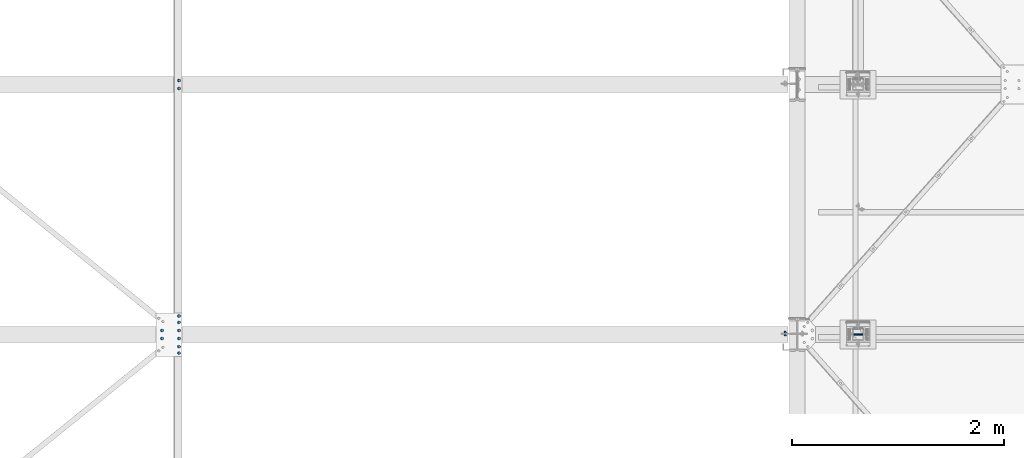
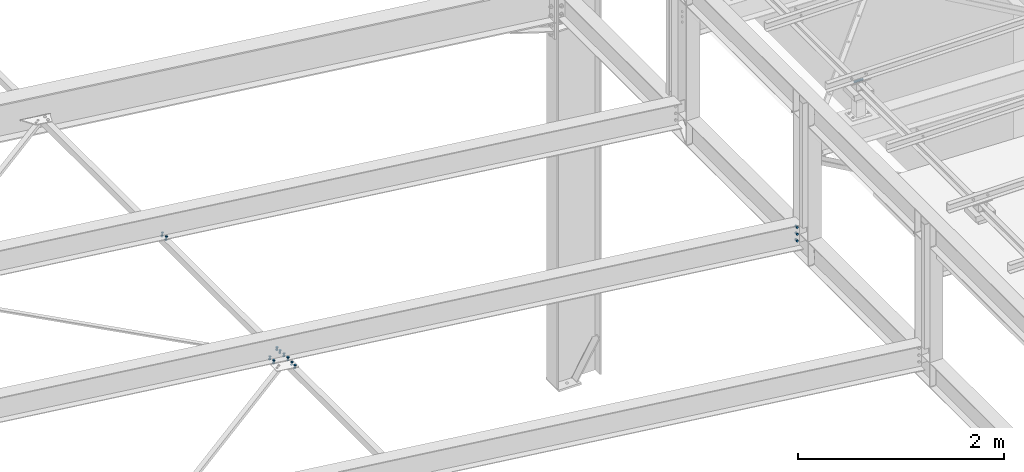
# One storey, part 351 of 3134: 6 mechanical fasteners, 4 elements without a shape of their own.
"""IFC2X3 building model written with IfcOpenShell, lengths in millimetres."""

from ifc_helpers import new_model, si_unit, frame, origin_with_axes, place, context, subcontext, project, spatial, faceted_brep, source, transform, mapped, material, type_object, element, aggregate, save


model = new_model("IFC2X3")

# Units and contexts
model_context = context("Model", 3, precision=1e-05, world=origin_with_axes())
body_context = subcontext(model_context, "Body", "Model", "MODEL_VIEW")
ifc_project = project(units=[si_unit("LENGTHUNIT", "METRE", prefix="MILLI"), si_unit("AREAUNIT", "SQUARE_METRE"), si_unit("VOLUMEUNIT", "CUBIC_METRE"), si_unit("MASSUNIT", "GRAM", prefix="KILO"), si_unit("TIMEUNIT", "SECOND"), si_unit("PLANEANGLEUNIT", "RADIAN"), si_unit("SOLIDANGLEUNIT", "STERADIAN"), si_unit("THERMODYNAMICTEMPERATUREUNIT", "DEGREE_CELSIUS"), si_unit("LUMINOUSINTENSITYUNIT", "LUMEN")], contexts=[model_context])

# Site, building, storey
site_placement = place(None, origin_with_axes())
site = spatial("IfcSite", under=ifc_project, at=site_placement, CompositionType="ELEMENT")
building_placement = place(site_placement, origin_with_axes())
building = spatial("IfcBuilding", under=site, at=building_placement, Name="Undefined", CompositionType="ELEMENT")
storey_placement = place(building_placement, origin_with_axes())
storey = spatial("IfcBuildingStorey", under=building, at=storey_placement, Name="Undefined", CompositionType="ELEMENT", Elevation=0.0)

# Assembly, mechanical fasteners
assembly_1_placement = place(storey_placement, origin_with_axes())
assembly_1 = element("IfcElementAssembly", 1, at=assembly_1_placement, inside=storey, Name="300", AssemblyPlace="NOTDEFINED", PredefinedType="RIGID_FRAME")
ifc_material = material(Name="8.8")
mechanical_fastener_type = type_object("IfcMechanicalFastenerType", Name="Bolt assembly")
shared_shape_1 = source(origin_with_axes(), body_context, "Body", "Brep", [
    faceted_brep([(13.856406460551, -19.199990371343, 0.0), (6.92820323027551, -19.199990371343, 12.0), (-6.92820323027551, -19.199990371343, 12.0), (-13.856406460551, -19.199990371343, 1.69692038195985e-15), (-6.92820323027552, -19.199990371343, -12.0), (6.9282032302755, -19.199990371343, -12.0), (6.9282032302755, -9.19999037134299, -12.0), (-6.92820323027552, -9.19999037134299, -12.0), (-13.856406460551, -9.19999037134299, 1.69692038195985e-15), (-6.92820323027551, -9.19999037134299, 12.0), (6.92820323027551, -9.19999037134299, 12.0), (13.856406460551, -9.19999037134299, 0.0), (8.0, -9.19999037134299, 0.0), (6.92820323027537, -9.19999037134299, 4.00000000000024), (3.99999999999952, -9.19999037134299, 6.92820323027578), (-8.29068785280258e-13, -9.19999037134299, 8.0), (-4.00000000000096, -9.19999037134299, 6.92820323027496), (-6.9282032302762, -9.19999037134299, 3.99999999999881), (-8.0, -9.19999037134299, -1.65813757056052e-12), (-6.92820323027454, -9.19999037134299, -4.00000000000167), (-3.99999999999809, -9.19999037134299, -6.92820323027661), (2.47832457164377e-12, -9.19999037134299, -8.0), (4.00000000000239, -9.19999037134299, -6.92820323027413), (6.92820323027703, -9.19999037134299, -3.99999999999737), (6.92820323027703, 25.800009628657, -3.99999999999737), (4.00000000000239, 25.800009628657, -6.92820323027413), (2.47832457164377e-12, 25.800009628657, -8.0), (-3.99999999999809, 25.800009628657, -6.92820323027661), (-6.92820323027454, 25.800009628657, -4.00000000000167), (-8.0, 25.800009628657, -1.65813757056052e-12), (-6.9282032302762, 25.800009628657, 3.99999999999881), (-4.00000000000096, 25.800009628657, 6.92820323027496), (-8.29068785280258e-13, 25.800009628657, 8.0), (3.99999999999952, 25.800009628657, 6.92820323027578), (6.92820323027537, 25.800009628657, 4.00000000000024), (8.0, 25.800009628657, 0.0), (13.856406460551, 8.00000637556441, 0.0), (6.92820323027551, 8.00000637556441, 12.0), (-6.92820323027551, 8.00000637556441, 12.0), (-13.856406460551, 8.00000637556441, 1.69692038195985e-15), (-6.92820323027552, 8.00000637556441, -12.0), (6.9282032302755, 8.00000637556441, -12.0), (6.9282032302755, 21.0000063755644, -12.0), (-6.92820323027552, 21.0000063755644, -12.0), (-13.856406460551, 21.0000063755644, 1.69692038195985e-15), (-6.92820323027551, 21.0000063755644, 12.0), (6.92820323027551, 21.0000063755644, 12.0), (13.856406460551, 21.0000063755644, 0.0)], [[[0, 1, 2, 3, 4, 5]], [[6, 7, 8, 9, 10, 11]], [[0, 11, 10, 1]], [[1, 10, 9, 2]], [[2, 9, 8, 3]], [[3, 8, 7, 4]], [[4, 7, 6, 5]], [[5, 6, 11, 0]], [[12, 13, 14, 15, 16, 17, 18, 19, 20, 21, 22, 23]], [[24, 25, 26, 27, 28, 29, 30, 31, 32, 33, 34, 35]], [[12, 35, 34, 13]], [[13, 34, 33, 14]], [[14, 33, 32, 15]], [[15, 32, 31, 16]], [[16, 31, 30, 17]], [[17, 30, 29, 18]], [[18, 29, 28, 19]], [[19, 28, 27, 20]], [[20, 27, 26, 21]], [[21, 26, 25, 22]], [[22, 25, 24, 23]], [[23, 24, 35, 12]], [[36, 37, 38, 39, 40, 41]], [[42, 43, 44, 45, 46, 47]], [[36, 47, 46, 37]], [[37, 46, 45, 38]], [[38, 45, 44, 39]], [[39, 44, 43, 40]], [[40, 43, 42, 41]], [[41, 42, 47, 36]]]),
    faceted_brep([(9.0, -0.1, 0.0), (7.79422863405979, -0.1, 4.50000000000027), (4.49999999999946, -0.1, 7.79422863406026), (-9.3270238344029e-13, -0.1, 9.0), (-4.50000000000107, -0.1, 7.79422863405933), (-7.79422863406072, -0.1, 4.49999999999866), (-9.0, -0.1, -1.86540476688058e-12), (-7.79422863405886, -0.1, -4.50000000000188), (-4.49999999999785, -0.1, -7.79422863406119), (2.78811514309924e-12, -0.1, -9.0), (4.50000000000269, -0.1, -7.7942286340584), (7.79422863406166, -0.1, -4.49999999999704), (7.79422863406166, 8.00000000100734, -4.49999999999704), (4.50000000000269, 8.00000000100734, -7.7942286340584), (2.78811514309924e-12, 8.00000000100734, -9.0), (-4.49999999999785, 8.00000000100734, -7.79422863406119), (-7.79422863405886, 8.00000000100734, -4.50000000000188), (-9.0, 8.00000000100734, -1.86540476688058e-12), (-7.79422863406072, 8.00000000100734, 4.49999999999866), (-4.50000000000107, 8.00000000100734, 7.79422863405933), (-9.3270238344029e-13, 8.00000000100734, 9.0), (4.49999999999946, 8.00000000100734, 7.79422863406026), (7.79422863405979, 8.00000000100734, 4.50000000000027), (9.0, 8.00000000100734, 0.0), (9.0, -9.09999037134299, 0.0), (7.79422863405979, -9.09999037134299, 4.50000000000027), (4.49999999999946, -9.09999037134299, 7.79422863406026), (-9.3270238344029e-13, -9.09999037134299, 9.0), (-4.50000000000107, -9.09999037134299, 7.79422863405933), (-7.79422863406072, -9.09999037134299, 4.49999999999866), (-9.0, -9.09999037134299, -1.86540476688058e-12), (-7.79422863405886, -9.09999037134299, -4.50000000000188), (-4.49999999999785, -9.09999037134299, -7.79422863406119), (2.78811514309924e-12, -9.09999037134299, -9.0), (4.50000000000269, -9.09999037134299, -7.7942286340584), (7.79422863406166, -9.09999037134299, -4.49999999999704), (7.79422863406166, 0.100000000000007, -4.49999999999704), (4.50000000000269, 0.100000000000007, -7.7942286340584), (2.78811514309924e-12, 0.100000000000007, -9.0), (-4.49999999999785, 0.100000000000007, -7.79422863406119), (-7.79422863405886, 0.100000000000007, -4.50000000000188), (-9.0, 0.100000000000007, -1.86540476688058e-12), (-7.79422863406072, 0.100000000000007, 4.49999999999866), (-4.50000000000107, 0.100000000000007, 7.79422863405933), (-9.3270238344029e-13, 0.100000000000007, 9.0), (4.49999999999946, 0.100000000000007, 7.79422863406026), (7.79422863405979, 0.100000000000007, 4.50000000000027), (9.0, 0.100000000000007, 0.0)], [[[0, 1, 2, 3, 4, 5, 6, 7, 8, 9, 10, 11]], [[12, 13, 14, 15, 16, 17, 18, 19, 20, 21, 22, 23]], [[0, 23, 22, 1]], [[1, 22, 21, 2]], [[2, 21, 20, 3]], [[3, 20, 19, 4]], [[4, 19, 18, 5]], [[5, 18, 17, 6]], [[6, 17, 16, 7]], [[7, 16, 15, 8]], [[8, 15, 14, 9]], [[9, 14, 13, 10]], [[10, 13, 12, 11]], [[11, 12, 23, 0]], [[24, 25, 26, 27, 28, 29, 30, 31, 32, 33, 34, 35]], [[36, 37, 38, 39, 40, 41, 42, 43, 44, 45, 46, 47]], [[24, 47, 46, 25]], [[25, 46, 45, 26]], [[26, 45, 44, 27]], [[27, 44, 43, 28]], [[28, 43, 42, 29]], [[29, 42, 41, 30]], [[30, 41, 40, 31]], [[31, 40, 39, 32]], [[32, 39, 38, 33]], [[33, 38, 37, 34]], [[34, 37, 36, 35]], [[35, 36, 47, 24]]]),
])
mechanical_fastener_1_placement = place(assembly_1_placement, frame((61633.5751064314, 14692.0, 4816.43281405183), z_axis=(-0.992623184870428, 0.0, 0.121240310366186), x_axis=(0.0, 1.0, 0.0)))
mechanical_fastener_1 = element("IfcMechanicalFastener", 2, at=mechanical_fastener_1_placement, type_object=mechanical_fastener_type, material=ifc_material, Name="Bolt assembly", NominalDiameter=16.0, NominalLength=35.0, context=body_context, shape_type="MappedRepresentation", body=[
    mapped(shared_shape_1, transform((0.0, -5.32963895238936e-10, -79.9999999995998))),
    mapped(shared_shape_1, transform((76.0, -5.32963895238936e-10, -79.9999999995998))),
    mapped(shared_shape_1, transform((0.0, 5.3114490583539e-10, 79.9999999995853))),
    mapped(shared_shape_1, transform((76.0, 5.3114490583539e-10, 79.9999999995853))),
])
shared_shape_2 = source(origin_with_axes(), body_context, "Body", "Brep", [
    faceted_brep([(13.856406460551, -13.0499999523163, 0.0), (6.92820323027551, -13.0499999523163, 12.0), (-6.92820323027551, -13.0499999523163, 12.0), (-13.856406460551, -13.0499999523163, 1.69692038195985e-15), (-6.92820323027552, -13.0499999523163, -12.0), (6.9282032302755, -13.0499999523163, -12.0), (6.9282032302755, -3.04999995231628, -12.0), (-6.92820323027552, -3.04999995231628, -12.0), (-13.856406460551, -3.04999995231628, 1.69692038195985e-15), (-6.92820323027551, -3.04999995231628, 12.0), (6.92820323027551, -3.04999995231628, 12.0), (13.856406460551, -3.04999995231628, 0.0), (8.0, -3.04999995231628, 0.0), (6.92820323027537, -3.04999995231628, 4.00000000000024), (3.99999999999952, -3.04999995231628, 6.92820323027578), (-8.29068785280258e-13, -3.04999995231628, 8.0), (-4.00000000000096, -3.04999995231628, 6.92820323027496), (-6.9282032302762, -3.04999995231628, 3.99999999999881), (-8.0, -3.04999995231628, -1.65813757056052e-12), (-6.92820323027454, -3.04999995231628, -4.00000000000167), (-3.99999999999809, -3.04999995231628, -6.92820323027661), (2.47832457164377e-12, -3.04999995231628, -8.0), (4.00000000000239, -3.04999995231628, -6.92820323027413), (6.92820323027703, -3.04999995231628, -3.99999999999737), (6.92820323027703, 31.9500000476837, -3.99999999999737), (4.00000000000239, 31.9500000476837, -6.92820323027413), (2.47832457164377e-12, 31.9500000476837, -8.0), (-3.99999999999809, 31.9500000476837, -6.92820323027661), (-6.92820323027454, 31.9500000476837, -4.00000000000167), (-8.0, 31.9500000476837, -1.65813757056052e-12), (-6.9282032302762, 31.9500000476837, 3.99999999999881), (-4.00000000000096, 31.9500000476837, 6.92820323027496), (-8.29068785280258e-13, 31.9500000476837, 8.0), (3.99999999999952, 31.9500000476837, 6.92820323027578), (6.92820323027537, 31.9500000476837, 4.00000000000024), (8.0, 31.9500000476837, 0.0), (13.856406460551, 13.0500000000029, 0.0), (6.92820323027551, 13.0500000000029, 12.0), (-6.92820323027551, 13.0500000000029, 12.0), (-13.856406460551, 13.0500000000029, 1.69692038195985e-15), (-6.92820323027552, 13.0500000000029, -12.0), (6.9282032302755, 13.0500000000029, -12.0), (6.9282032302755, 26.0500000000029, -12.0), (-6.92820323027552, 26.0500000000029, -12.0), (-13.856406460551, 26.0500000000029, 1.69692038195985e-15), (-6.92820323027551, 26.0500000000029, 12.0), (6.92820323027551, 26.0500000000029, 12.0), (13.856406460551, 26.0500000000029, 0.0)], [[[0, 1, 2, 3, 4, 5]], [[6, 7, 8, 9, 10, 11]], [[0, 11, 10, 1]], [[1, 10, 9, 2]], [[2, 9, 8, 3]], [[3, 8, 7, 4]], [[4, 7, 6, 5]], [[5, 6, 11, 0]], [[12, 13, 14, 15, 16, 17, 18, 19, 20, 21, 22, 23]], [[24, 25, 26, 27, 28, 29, 30, 31, 32, 33, 34, 35]], [[12, 35, 34, 13]], [[13, 34, 33, 14]], [[14, 33, 32, 15]], [[15, 32, 31, 16]], [[16, 31, 30, 17]], [[17, 30, 29, 18]], [[18, 29, 28, 19]], [[19, 28, 27, 20]], [[20, 27, 26, 21]], [[21, 26, 25, 22]], [[22, 25, 24, 23]], [[23, 24, 35, 12]], [[36, 37, 38, 39, 40, 41]], [[42, 43, 44, 45, 46, 47]], [[36, 47, 46, 37]], [[37, 46, 45, 38]], [[38, 45, 44, 39]], [[39, 44, 43, 40]], [[40, 43, 42, 41]], [[41, 42, 47, 36]]]),
    faceted_brep([(9.0, 2.95000000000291, 0.0), (7.79422863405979, 2.95000000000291, 4.50000000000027), (4.49999999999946, 2.95000000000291, 7.79422863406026), (-9.3270238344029e-13, 2.95000000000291, 9.0), (-4.50000000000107, 2.95000000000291, 7.79422863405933), (-7.79422863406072, 2.95000000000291, 4.49999999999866), (-9.0, 2.95000000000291, -1.86540476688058e-12), (-7.79422863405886, 2.95000000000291, -4.50000000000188), (-4.49999999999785, 2.95000000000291, -7.79422863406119), (2.78811514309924e-12, 2.95000000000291, -9.0), (4.50000000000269, 2.95000000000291, -7.7942286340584), (7.79422863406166, 2.95000000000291, -4.49999999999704), (7.79422863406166, 13.0500000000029, -4.49999999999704), (4.50000000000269, 13.0500000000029, -7.7942286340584), (2.78811514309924e-12, 13.0500000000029, -9.0), (-4.49999999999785, 13.0500000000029, -7.79422863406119), (-7.79422863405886, 13.0500000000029, -4.50000000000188), (-9.0, 13.0500000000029, -1.86540476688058e-12), (-7.79422863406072, 13.0500000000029, 4.49999999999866), (-4.50000000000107, 13.0500000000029, 7.79422863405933), (-9.3270238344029e-13, 13.0500000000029, 9.0), (4.49999999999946, 13.0500000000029, 7.79422863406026), (7.79422863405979, 13.0500000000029, 4.50000000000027), (9.0, 13.0500000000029, 0.0), (9.0, -2.94999995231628, 0.0), (7.79422863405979, -2.94999995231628, 4.50000000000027), (4.49999999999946, -2.94999995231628, 7.79422863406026), (-9.3270238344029e-13, -2.94999995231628, 9.0), (-4.50000000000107, -2.94999995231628, 7.79422863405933), (-7.79422863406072, -2.94999995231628, 4.49999999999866), (-9.0, -2.94999995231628, -1.86540476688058e-12), (-7.79422863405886, -2.94999995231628, -4.50000000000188), (-4.49999999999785, -2.94999995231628, -7.79422863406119), (2.78811514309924e-12, -2.94999995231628, -9.0), (4.50000000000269, -2.94999995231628, -7.7942286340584), (7.79422863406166, -2.94999995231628, -4.49999999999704), (7.79422863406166, 3.14999995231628, -4.49999999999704), (4.50000000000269, 3.14999995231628, -7.7942286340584), (2.78811514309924e-12, 3.14999995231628, -9.0), (-4.49999999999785, 3.14999995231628, -7.79422863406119), (-7.79422863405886, 3.14999995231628, -4.50000000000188), (-9.0, 3.14999995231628, -1.86540476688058e-12), (-7.79422863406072, 3.14999995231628, 4.49999999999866), (-4.50000000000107, 3.14999995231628, 7.79422863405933), (-9.3270238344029e-13, 3.14999995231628, 9.0), (4.49999999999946, 3.14999995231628, 7.79422863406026), (7.79422863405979, 3.14999995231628, 4.50000000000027), (9.0, 3.14999995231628, 0.0)], [[[0, 1, 2, 3, 4, 5, 6, 7, 8, 9, 10, 11]], [[12, 13, 14, 15, 16, 17, 18, 19, 20, 21, 22, 23]], [[0, 23, 22, 1]], [[1, 22, 21, 2]], [[2, 21, 20, 3]], [[3, 20, 19, 4]], [[4, 19, 18, 5]], [[5, 18, 17, 6]], [[6, 17, 16, 7]], [[7, 16, 15, 8]], [[8, 15, 14, 9]], [[9, 14, 13, 10]], [[10, 13, 12, 11]], [[11, 12, 23, 0]], [[24, 25, 26, 27, 28, 29, 30, 31, 32, 33, 34, 35]], [[36, 37, 38, 39, 40, 41, 42, 43, 44, 45, 46, 47]], [[24, 47, 46, 25]], [[25, 46, 45, 26]], [[26, 45, 44, 27]], [[27, 44, 43, 28]], [[28, 43, 42, 29]], [[29, 42, 41, 30]], [[30, 41, 40, 31]], [[31, 40, 39, 32]], [[32, 39, 38, 33]], [[33, 38, 37, 34]], [[34, 37, 36, 35]], [[35, 36, 47, 24]]]),
])
mechanical_fastener_2_placement = place(assembly_1_placement, frame((67435.0000000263, 14730.0, 4337.44269268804), z_axis=(1.0, 0.0, 0.0), x_axis=(0.0, 0.0, -1.0)))
mechanical_fastener_2 = element("IfcMechanicalFastener", 3, at=mechanical_fastener_2_placement, type_object=mechanical_fastener_type, material=ifc_material, Name="Bolt assembly", NominalDiameter=16.0, NominalLength=35.0, context=body_context, shape_type="MappedRepresentation", body=[
    mapped(shared_shape_2, transform((0.0, 0.0, 0.0))),
    mapped(shared_shape_2, transform((80.0, 0.0, 0.0))),
    mapped(shared_shape_2, transform((160.0, 0.0, 0.0))),
])
aggregate(assembly_1, [mechanical_fastener_2, mechanical_fastener_1])

# Assembly, mechanical fastener
assembly_2_placement = place(storey_placement, origin_with_axes())
assembly_2 = element("IfcElementAssembly", 4, at=assembly_2_placement, inside=storey, AssemblyPlace="NOTDEFINED", PredefinedType="RIGID_FRAME")
shared_shape_3 = source(origin_with_axes(), body_context, "Body", "Brep", [
    faceted_brep([(13.856406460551, -19.199990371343, 0.0), (6.92820323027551, -19.199990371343, 12.0), (-6.92820323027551, -19.199990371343, 12.0), (-13.856406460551, -19.199990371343, 1.69692038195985e-15), (-6.92820323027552, -19.199990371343, -12.0), (6.9282032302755, -19.199990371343, -12.0), (6.9282032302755, -9.19999037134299, -12.0), (-6.92820323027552, -9.19999037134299, -12.0), (-13.856406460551, -9.19999037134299, 1.69692038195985e-15), (-6.92820323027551, -9.19999037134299, 12.0), (6.92820323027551, -9.19999037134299, 12.0), (13.856406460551, -9.19999037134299, 0.0), (8.0, -9.19999037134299, 0.0), (6.92820323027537, -9.19999037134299, 4.00000000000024), (3.99999999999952, -9.19999037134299, 6.92820323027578), (-8.29068785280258e-13, -9.19999037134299, 8.0), (-4.00000000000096, -9.19999037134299, 6.92820323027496), (-6.9282032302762, -9.19999037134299, 3.99999999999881), (-8.0, -9.19999037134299, -1.65813757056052e-12), (-6.92820323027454, -9.19999037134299, -4.00000000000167), (-3.99999999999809, -9.19999037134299, -6.92820323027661), (2.47832457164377e-12, -9.19999037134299, -8.0), (4.00000000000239, -9.19999037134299, -6.92820323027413), (6.92820323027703, -9.19999037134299, -3.99999999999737), (6.92820323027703, 35.8000002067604, -3.99999999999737), (4.00000000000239, 35.8000002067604, -6.92820323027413), (2.47832457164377e-12, 35.8000002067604, -8.0), (-3.99999999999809, 35.8000002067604, -6.92820323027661), (-6.92820323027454, 35.8000002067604, -4.00000000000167), (-8.0, 35.8000002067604, -1.65813757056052e-12), (-6.9282032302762, 35.8000002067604, 3.99999999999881), (-4.00000000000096, 35.8000002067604, 6.92820323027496), (-8.29068785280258e-13, 35.8000002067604, 8.0), (3.99999999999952, 35.8000002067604, 6.92820323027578), (6.92820323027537, 35.8000002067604, 4.00000000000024), (8.0, 35.8000002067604, 0.0), (13.856406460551, 14.9999995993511, 0.0), (6.92820323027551, 14.9999995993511, 12.0), (-6.92820323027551, 14.9999995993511, 12.0), (-13.856406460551, 14.9999995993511, 1.69692038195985e-15), (-6.92820323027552, 14.9999995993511, -12.0), (6.9282032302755, 14.9999995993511, -12.0), (6.9282032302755, 27.9999995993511, -12.0), (-6.92820323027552, 27.9999995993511, -12.0), (-13.856406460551, 27.9999995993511, 1.69692038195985e-15), (-6.92820323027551, 27.9999995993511, 12.0), (6.92820323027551, 27.9999995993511, 12.0), (13.856406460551, 27.9999995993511, 0.0)], [[[0, 1, 2, 3, 4, 5]], [[6, 7, 8, 9, 10, 11]], [[0, 11, 10, 1]], [[1, 10, 9, 2]], [[2, 9, 8, 3]], [[3, 8, 7, 4]], [[4, 7, 6, 5]], [[5, 6, 11, 0]], [[12, 13, 14, 15, 16, 17, 18, 19, 20, 21, 22, 23]], [[24, 25, 26, 27, 28, 29, 30, 31, 32, 33, 34, 35]], [[12, 35, 34, 13]], [[13, 34, 33, 14]], [[14, 33, 32, 15]], [[15, 32, 31, 16]], [[16, 31, 30, 17]], [[17, 30, 29, 18]], [[18, 29, 28, 19]], [[19, 28, 27, 20]], [[20, 27, 26, 21]], [[21, 26, 25, 22]], [[22, 25, 24, 23]], [[23, 24, 35, 12]], [[36, 37, 38, 39, 40, 41]], [[42, 43, 44, 45, 46, 47]], [[36, 47, 46, 37]], [[37, 46, 45, 38]], [[38, 45, 44, 39]], [[39, 44, 43, 40]], [[40, 43, 42, 41]], [[41, 42, 47, 36]]]),
    faceted_brep([(9.0, -9.09999037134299, 0.0), (7.79422863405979, -9.09999037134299, 4.50000000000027), (4.49999999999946, -9.09999037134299, 7.79422863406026), (-9.3270238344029e-13, -9.09999037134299, 9.0), (-4.50000000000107, -9.09999037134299, 7.79422863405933), (-7.79422863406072, -9.09999037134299, 4.49999999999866), (-9.0, -9.09999037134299, -1.86540476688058e-12), (-7.79422863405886, -9.09999037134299, -4.50000000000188), (-4.49999999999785, -9.09999037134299, -7.79422863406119), (2.78811514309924e-12, -9.09999037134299, -9.0), (4.50000000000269, -9.09999037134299, -7.7942286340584), (7.79422863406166, -9.09999037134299, -4.49999999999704), (7.79422863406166, 0.100000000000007, -4.49999999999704), (4.50000000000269, 0.100000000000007, -7.7942286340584), (2.78811514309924e-12, 0.100000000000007, -9.0), (-4.49999999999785, 0.100000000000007, -7.79422863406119), (-7.79422863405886, 0.100000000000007, -4.50000000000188), (-9.0, 0.100000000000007, -1.86540476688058e-12), (-7.79422863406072, 0.100000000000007, 4.49999999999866), (-4.50000000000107, 0.100000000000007, 7.79422863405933), (-9.3270238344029e-13, 0.100000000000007, 9.0), (4.49999999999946, 0.100000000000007, 7.79422863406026), (7.79422863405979, 0.100000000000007, 4.50000000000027), (9.0, 0.100000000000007, 0.0), (9.0, 7.9, 0.0), (7.79422863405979, 7.9, 4.50000000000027), (4.49999999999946, 7.9, 7.79422863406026), (-9.3270238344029e-13, 7.9, 9.0), (-4.50000000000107, 7.9, 7.79422863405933), (-7.79422863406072, 7.9, 4.49999999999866), (-9.0, 7.9, -1.86540476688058e-12), (-7.79422863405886, 7.9, -4.50000000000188), (-4.49999999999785, 7.9, -7.79422863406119), (2.78811514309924e-12, 7.9, -9.0), (4.50000000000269, 7.9, -7.7942286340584), (7.79422863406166, 7.9, -4.49999999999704), (7.79422863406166, 14.9999995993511, -4.49999999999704), (4.50000000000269, 14.9999995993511, -7.7942286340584), (2.78811514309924e-12, 14.9999995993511, -9.0), (-4.49999999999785, 14.9999995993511, -7.79422863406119), (-7.79422863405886, 14.9999995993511, -4.50000000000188), (-9.0, 14.9999995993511, -1.86540476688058e-12), (-7.79422863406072, 14.9999995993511, 4.49999999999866), (-4.50000000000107, 14.9999995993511, 7.79422863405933), (-9.3270238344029e-13, 14.9999995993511, 9.0), (4.49999999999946, 14.9999995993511, 7.79422863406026), (7.79422863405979, 14.9999995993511, 4.50000000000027), (9.0, 14.9999995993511, 0.0)], [[[0, 1, 2, 3, 4, 5, 6, 7, 8, 9, 10, 11]], [[12, 13, 14, 15, 16, 17, 18, 19, 20, 21, 22, 23]], [[0, 23, 22, 1]], [[1, 22, 21, 2]], [[2, 21, 20, 3]], [[3, 20, 19, 4]], [[4, 19, 18, 5]], [[5, 18, 17, 6]], [[6, 17, 16, 7]], [[7, 16, 15, 8]], [[8, 15, 14, 9]], [[9, 14, 13, 10]], [[10, 13, 12, 11]], [[11, 12, 23, 0]], [[24, 25, 26, 27, 28, 29, 30, 31, 32, 33, 34, 35]], [[36, 37, 38, 39, 40, 41, 42, 43, 44, 45, 46, 47]], [[24, 47, 46, 25]], [[25, 46, 45, 26]], [[26, 45, 44, 27]], [[27, 44, 43, 28]], [[28, 43, 42, 29]], [[29, 42, 41, 30]], [[30, 41, 40, 31]], [[31, 40, 39, 32]], [[32, 39, 38, 33]], [[33, 38, 37, 34]], [[34, 37, 36, 35]], [[35, 36, 47, 24]]]),
])
mechanical_fastener_3_placement = place(assembly_2_placement, frame((61712.984961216, 17052.0, 4806.73358921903), z_axis=(-0.992623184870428, 0.0, 0.121240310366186), x_axis=(0.0, 1.0, 0.0)))
mechanical_fastener_3 = element("IfcMechanicalFastener", 5, at=mechanical_fastener_3_placement, type_object=mechanical_fastener_type, material=ifc_material, Name="Bolt assembly", NominalDiameter=16.0, NominalLength=45.0, context=body_context, shape_type="MappedRepresentation", body=[
    mapped(shared_shape_3, transform((0.0, 0.0, 0.0))),
    mapped(shared_shape_3, transform((76.0, 0.0, 0.0))),
])
aggregate(assembly_2, [mechanical_fastener_3])

# Assembly, mechanical fasteners
assembly_3_placement = place(storey_placement, origin_with_axes())
assembly_3 = element("IfcElementAssembly", 6, at=assembly_3_placement, inside=storey, Name="PL8", AssemblyPlace="NOTDEFINED", PredefinedType="RIGID_FRAME")
shared_shape_4 = source(origin_with_axes(), body_context, "Body", "Brep", [
    faceted_brep([(13.856406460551, -10.0, 0.0), (6.92820323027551, -10.0, 12.0), (-6.92820323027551, -10.0, 12.0), (-13.856406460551, -10.0, 1.69692038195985e-15), (-6.92820323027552, -10.0, -12.0), (6.9282032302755, -10.0, -12.0), (6.9282032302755, 0.0, -12.0), (-6.92820323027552, 0.0, -12.0), (-13.856406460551, 0.0, 1.69692038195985e-15), (-6.92820323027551, 0.0, 12.0), (6.92820323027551, 0.0, 12.0), (13.856406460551, 0.0, 0.0), (8.0, 0.0, 0.0), (6.92820323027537, 0.0, 4.00000000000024), (3.99999999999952, 0.0, 6.92820323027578), (-8.29068785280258e-13, 0.0, 8.0), (-4.00000000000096, 0.0, 6.92820323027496), (-6.9282032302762, 0.0, 3.99999999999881), (-8.0, 0.0, -1.65813757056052e-12), (-6.92820323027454, 0.0, -4.00000000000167), (-3.99999999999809, 0.0, -6.92820323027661), (2.47832457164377e-12, 0.0, -8.0), (4.00000000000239, 0.0, -6.92820323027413), (6.92820323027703, 0.0, -3.99999999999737), (6.92820323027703, 35.0000000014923, -3.99999999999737), (4.00000000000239, 35.0000000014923, -6.92820323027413), (2.47832457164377e-12, 35.0000000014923, -8.0), (-3.99999999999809, 35.0000000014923, -6.92820323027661), (-6.92820323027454, 35.0000000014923, -4.00000000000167), (-8.0, 35.0000000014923, -1.65813757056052e-12), (-6.9282032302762, 35.0000000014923, 3.99999999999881), (-4.00000000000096, 35.0000000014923, 6.92820323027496), (-8.29068785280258e-13, 35.0000000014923, 8.0), (3.99999999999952, 35.0000000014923, 6.92820323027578), (6.92820323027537, 35.0000000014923, 4.00000000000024), (8.0, 35.0000000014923, 0.0), (13.856406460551, 14.9999995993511, 0.0), (6.92820323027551, 14.9999995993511, 12.0), (-6.92820323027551, 14.9999995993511, 12.0), (-13.856406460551, 14.9999995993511, 1.69692038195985e-15), (-6.92820323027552, 14.9999995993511, -12.0), (6.9282032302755, 14.9999995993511, -12.0), (6.9282032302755, 27.9999995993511, -12.0), (-6.92820323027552, 27.9999995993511, -12.0), (-13.856406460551, 27.9999995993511, 1.69692038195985e-15), (-6.92820323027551, 27.9999995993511, 12.0), (6.92820323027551, 27.9999995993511, 12.0), (13.856406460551, 27.9999995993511, 0.0)], [[[0, 1, 2, 3, 4, 5]], [[6, 7, 8, 9, 10, 11]], [[0, 11, 10, 1]], [[1, 10, 9, 2]], [[2, 9, 8, 3]], [[3, 8, 7, 4]], [[4, 7, 6, 5]], [[5, 6, 11, 0]], [[12, 13, 14, 15, 16, 17, 18, 19, 20, 21, 22, 23]], [[24, 25, 26, 27, 28, 29, 30, 31, 32, 33, 34, 35]], [[12, 35, 34, 13]], [[13, 34, 33, 14]], [[14, 33, 32, 15]], [[15, 32, 31, 16]], [[16, 31, 30, 17]], [[17, 30, 29, 18]], [[18, 29, 28, 19]], [[19, 28, 27, 20]], [[20, 27, 26, 21]], [[21, 26, 25, 22]], [[22, 25, 24, 23]], [[23, 24, 35, 12]], [[36, 37, 38, 39, 40, 41]], [[42, 43, 44, 45, 46, 47]], [[36, 47, 46, 37]], [[37, 46, 45, 38]], [[38, 45, 44, 39]], [[39, 44, 43, 40]], [[40, 43, 42, 41]], [[41, 42, 47, 36]]]),
    faceted_brep([(9.0, 7.9, 0.0), (7.79422863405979, 7.9, 4.50000000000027), (4.49999999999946, 7.9, 7.79422863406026), (-9.3270238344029e-13, 7.9, 9.0), (-4.50000000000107, 7.9, 7.79422863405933), (-7.79422863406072, 7.9, 4.49999999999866), (-9.0, 7.9, -1.86540476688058e-12), (-7.79422863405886, 7.9, -4.50000000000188), (-4.49999999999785, 7.9, -7.79422863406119), (2.78811514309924e-12, 7.9, -9.0), (4.50000000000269, 7.9, -7.7942286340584), (7.79422863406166, 7.9, -4.49999999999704), (7.79422863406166, 14.9999995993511, -4.49999999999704), (4.50000000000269, 14.9999995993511, -7.7942286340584), (2.78811514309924e-12, 14.9999995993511, -9.0), (-4.49999999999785, 14.9999995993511, -7.79422863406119), (-7.79422863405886, 14.9999995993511, -4.50000000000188), (-9.0, 14.9999995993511, -1.86540476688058e-12), (-7.79422863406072, 14.9999995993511, 4.49999999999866), (-4.50000000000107, 14.9999995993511, 7.79422863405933), (-9.3270238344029e-13, 14.9999995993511, 9.0), (4.49999999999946, 14.9999995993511, 7.79422863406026), (7.79422863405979, 14.9999995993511, 4.50000000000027), (9.0, 14.9999995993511, 0.0), (9.0, 0.100000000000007, 0.0), (7.79422863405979, 0.100000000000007, 4.50000000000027), (4.49999999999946, 0.100000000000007, 7.79422863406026), (-9.3270238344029e-13, 0.100000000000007, 9.0), (-4.50000000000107, 0.100000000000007, 7.79422863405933), (-7.79422863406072, 0.100000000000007, 4.49999999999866), (-9.0, 0.100000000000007, -1.86540476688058e-12), (-7.79422863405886, 0.100000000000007, -4.50000000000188), (-4.49999999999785, 0.100000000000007, -7.79422863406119), (2.78811514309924e-12, 0.100000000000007, -9.0), (4.50000000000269, 0.100000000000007, -7.7942286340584), (7.79422863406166, 0.100000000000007, -4.49999999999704), (7.79422863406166, 8.1, -4.49999999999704), (4.50000000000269, 8.1, -7.7942286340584), (2.78811514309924e-12, 8.1, -9.0), (-4.49999999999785, 8.1, -7.79422863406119), (-7.79422863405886, 8.1, -4.50000000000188), (-9.0, 8.1, -1.86540476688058e-12), (-7.79422863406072, 8.1, 4.49999999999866), (-4.50000000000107, 8.1, 7.79422863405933), (-9.3270238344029e-13, 8.1, 9.0), (4.49999999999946, 8.1, 7.79422863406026), (7.79422863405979, 8.1, 4.50000000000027), (9.0, 8.1, 0.0)], [[[0, 1, 2, 3, 4, 5, 6, 7, 8, 9, 10, 11]], [[12, 13, 14, 15, 16, 17, 18, 19, 20, 21, 22, 23]], [[0, 23, 22, 1]], [[1, 22, 21, 2]], [[2, 21, 20, 3]], [[3, 20, 19, 4]], [[4, 19, 18, 5]], [[5, 18, 17, 6]], [[6, 17, 16, 7]], [[7, 16, 15, 8]], [[8, 15, 14, 9]], [[9, 14, 13, 10]], [[10, 13, 12, 11]], [[11, 12, 23, 0]], [[24, 25, 26, 27, 28, 29, 30, 31, 32, 33, 34, 35]], [[36, 37, 38, 39, 40, 41, 42, 43, 44, 45, 46, 47]], [[24, 47, 46, 25]], [[25, 46, 45, 26]], [[26, 45, 44, 27]], [[27, 44, 43, 28]], [[28, 43, 42, 29]], [[29, 42, 41, 30]], [[30, 41, 40, 31]], [[31, 40, 39, 32]], [[32, 39, 38, 33]], [[33, 38, 37, 34]], [[34, 37, 36, 35]], [[35, 36, 47, 24]]]),
])
mechanical_fastener_4_placement = place(assembly_3_placement, frame((61712.9849612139, 14905.0, 4806.73358922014), z_axis=(0.992623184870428, 0.0, -0.121240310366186), x_axis=(0.0, -1.0, 0.0)))
mechanical_fastener_4 = element("IfcMechanicalFastener", 7, at=mechanical_fastener_4_placement, type_object=mechanical_fastener_type, material=ifc_material, Name="Bolt assembly", NominalDiameter=16.0, NominalLength=35.0, context=body_context, shape_type="MappedRepresentation", body=[
    mapped(shared_shape_4, transform((0.0, 0.0, 0.0))),
    mapped(shared_shape_4, transform((59.9999999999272, 0.0, 5.40239852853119e-10))),
])
mechanical_fastener_5_placement = place(assembly_3_placement, frame((61712.9849612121, 14615.0, 4806.73358922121), z_axis=(0.992623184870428, 0.0, -0.121240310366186), x_axis=(0.0, -1.0, 0.0)))
mechanical_fastener_5 = element("IfcMechanicalFastener", 8, at=mechanical_fastener_5_placement, type_object=mechanical_fastener_type, material=ifc_material, Name="Bolt assembly", NominalDiameter=16.0, NominalLength=35.0, context=body_context, shape_type="MappedRepresentation", body=[
    mapped(shared_shape_4, transform((0.0, 0.0, 0.0))),
    mapped(shared_shape_4, transform((59.9999999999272, 0.0, 5.40239852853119e-10))),
])
aggregate(assembly_3, [mechanical_fastener_4, mechanical_fastener_5])

# Assembly, mechanical fastener
assembly_4_placement = place(storey_placement, origin_with_axes())
assembly_4 = element("IfcElementAssembly", 9, at=assembly_4_placement, inside=storey, AssemblyPlace="NOTDEFINED", PredefinedType="RIGID_FRAME")
shared_shape_5 = source(origin_with_axes(), body_context, "Body", "Brep", [
    faceted_brep([(9.0, -50.0, 0.0), (7.79422863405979, -50.0, 4.50000000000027), (4.49999999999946, -50.0, 7.79422863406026), (-9.3270238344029e-13, -50.0, 9.0), (-4.50000000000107, -50.0, 7.79422863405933), (-7.79422863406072, -50.0, 4.49999999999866), (-9.0, -50.0, -1.86540476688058e-12), (-7.79422863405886, -50.0, -4.50000000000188), (-4.49999999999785, -50.0, -7.79422863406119), (2.78811514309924e-12, -50.0, -9.0), (4.50000000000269, -50.0, -7.7942286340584), (7.79422863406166, -50.0, -4.49999999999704), (7.79422863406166, 50.1, -4.49999999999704), (4.50000000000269, 50.1, -7.7942286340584), (2.78811514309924e-12, 50.1, -9.0), (-4.49999999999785, 50.1, -7.79422863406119), (-7.79422863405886, 50.1, -4.50000000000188), (-9.0, 50.1, -1.86540476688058e-12), (-7.79422863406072, 50.1, 4.49999999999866), (-4.50000000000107, 50.1, 7.79422863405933), (-9.3270238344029e-13, 50.1, 9.0), (4.49999999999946, 50.1, 7.79422863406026), (7.79422863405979, 50.1, 4.50000000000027), (9.0, 50.1, 0.0)], [[[0, 1, 2, 3, 4, 5, 6, 7, 8, 9, 10, 11]], [[12, 13, 14, 15, 16, 17, 18, 19, 20, 21, 22, 23]], [[0, 23, 22, 1]], [[1, 22, 21, 2]], [[2, 21, 20, 3]], [[3, 20, 19, 4]], [[4, 19, 18, 5]], [[5, 18, 17, 6]], [[6, 17, 16, 7]], [[7, 16, 15, 8]], [[8, 15, 14, 9]], [[9, 14, 13, 10]], [[10, 13, 12, 11]], [[11, 12, 23, 0]]]),
])
mechanical_fastener_6_placement = place(assembly_4_placement, frame((68125.0, 14730.0, 5830.0), z_axis=(0.0, 1.0, 0.0), x_axis=(0.0, 0.0, 1.0)))
mechanical_fastener_6 = element("IfcMechanicalFastener", 10, at=mechanical_fastener_6_placement, type_object=mechanical_fastener_type, material=ifc_material, Name="Bolt assembly", NominalDiameter=16.0, NominalLength=100.0, context=body_context, shape_type="MappedRepresentation", body=[
    mapped(shared_shape_5, transform((0.0, 0.0, 0.0))),
])
aggregate(assembly_4, [mechanical_fastener_6])

save(model, "model.ifc")
